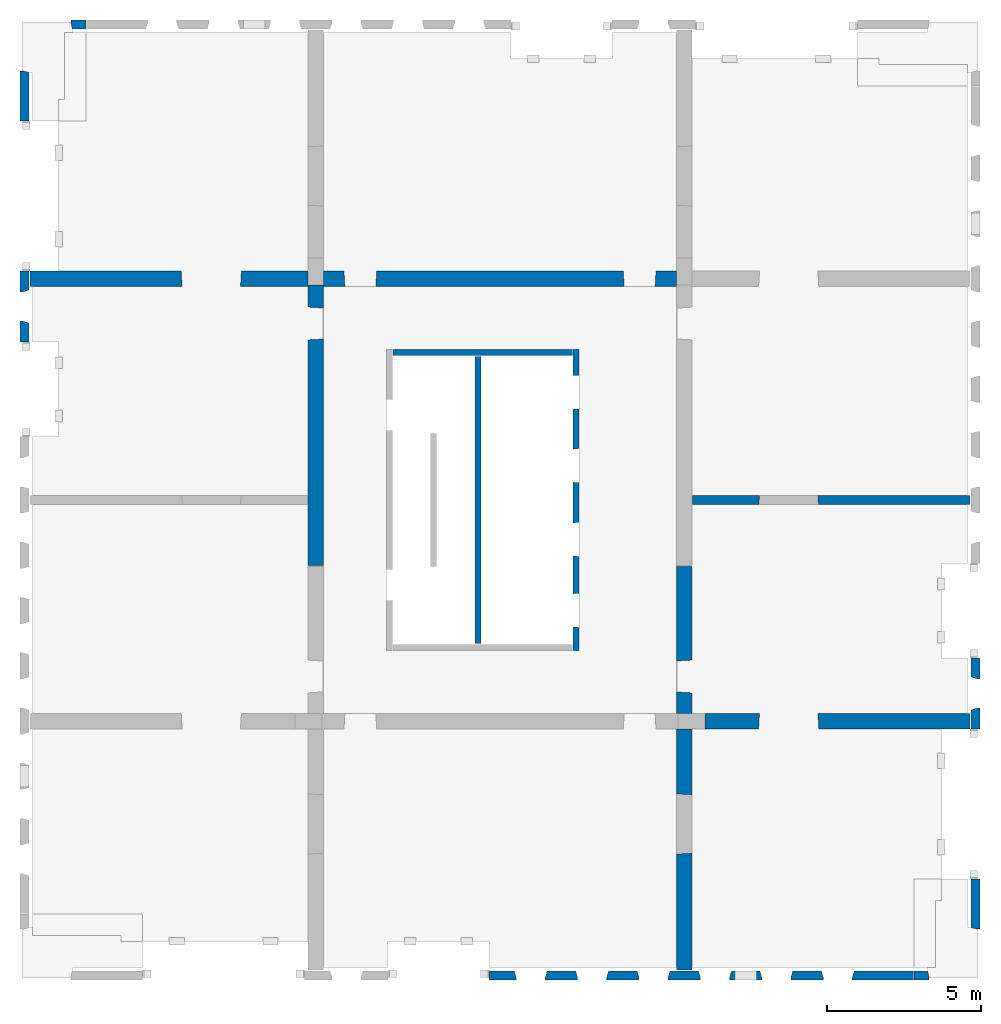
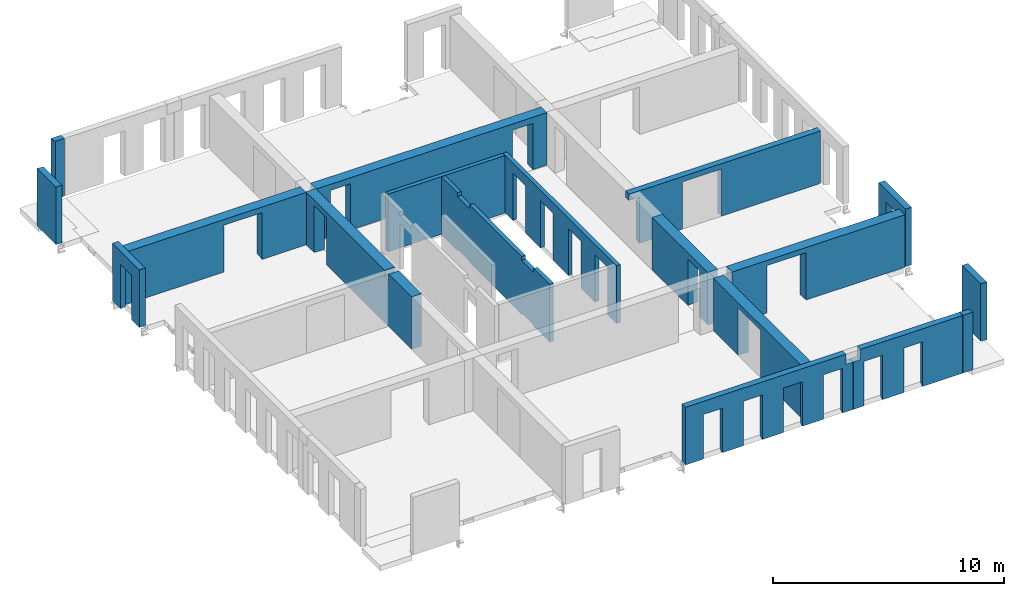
# One storey, part 3 of 4: 18 walls, 36 openings.
"""IFC2X3 building model written with IfcOpenShell, lengths in millimetres."""

from ifc_helpers import new_model, entity, si_unit, converted_unit, derived_unit, direction, frame, frame_2d, origin, origin_2d_with_axis, place, context, subcontext, project, spatial, rectangle, extrude, faceted_brep, material, layer, layer_set, layer_usage, type_object, element, save


model = new_model("IFC2X3")

# Units and contexts
model_context = context("Model", 3, precision=0.01, world=origin(), true_north=direction((6.12303176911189e-17, 1.0)))
body_context = subcontext(model_context, "Body", "Model", "MODEL_VIEW")
ifc_project = project(units=[si_unit("LENGTHUNIT", "METRE", prefix="MILLI"), si_unit("AREAUNIT", "SQUARE_METRE"), si_unit("VOLUMEUNIT", "CUBIC_METRE"), converted_unit("PLANEANGLEUNIT", "DEGREE", entity("IfcRatioMeasure", 0.0174532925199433), si_unit("PLANEANGLEUNIT", "RADIAN"), dimensions=[0, 0, 0, 0, 0, 0, 0]), si_unit("MASSUNIT", "GRAM", prefix="KILO"), derived_unit("MASSDENSITYUNIT", [(si_unit("MASSUNIT", "GRAM", prefix="KILO"), 1), (si_unit("LENGTHUNIT", "METRE"), -3)]), si_unit("TIMEUNIT", "SECOND"), si_unit("FREQUENCYUNIT", "HERTZ"), si_unit("THERMODYNAMICTEMPERATUREUNIT", "DEGREE_CELSIUS"), derived_unit("THERMALTRANSMITTANCEUNIT", [(si_unit("MASSUNIT", "GRAM", prefix="KILO"), 1), (si_unit("THERMODYNAMICTEMPERATUREUNIT", "KELVIN"), -1), (si_unit("TIMEUNIT", "SECOND"), -3)]), derived_unit("VOLUMETRICFLOWRATEUNIT", [(si_unit("LENGTHUNIT", "METRE"), 3), (si_unit("TIMEUNIT", "SECOND"), -1)]), si_unit("ELECTRICCURRENTUNIT", "AMPERE"), si_unit("ELECTRICVOLTAGEUNIT", "VOLT"), si_unit("POWERUNIT", "WATT"), si_unit("FORCEUNIT", "NEWTON", prefix="KILO"), si_unit("ILLUMINANCEUNIT", "LUX"), si_unit("LUMINOUSFLUXUNIT", "LUMEN"), si_unit("LUMINOUSINTENSITYUNIT", "CANDELA"), derived_unit("USERDEFINED", [(si_unit("MASSUNIT", "GRAM", prefix="KILO"), -1), (si_unit("LENGTHUNIT", "METRE"), -2), (si_unit("TIMEUNIT", "SECOND"), 3), (si_unit("LUMINOUSFLUXUNIT", "LUMEN"), 1)]), derived_unit("LINEARVELOCITYUNIT", [(si_unit("LENGTHUNIT", "METRE"), 1), (si_unit("TIMEUNIT", "SECOND"), -1)]), si_unit("PRESSUREUNIT", "PASCAL"), derived_unit("USERDEFINED", [(si_unit("LENGTHUNIT", "METRE"), -2), (si_unit("MASSUNIT", "GRAM", prefix="KILO"), 1), (si_unit("TIMEUNIT", "SECOND"), -2)])], contexts=[model_context])

# Site, building, storey
site_placement = place(None, origin())
site = spatial("IfcSite", under=ifc_project, at=site_placement, Name="Default", CompositionType="ELEMENT")
building_placement = place(site_placement, origin())
building = spatial("IfcBuilding", under=site, at=building_placement, Name="niet gebruiken", CompositionType="ELEMENT")
storey_placement = place(building_placement, frame((0.0, 0.0, 30240.0)))
storey = spatial("IfcBuildingStorey", under=building, at=storey_placement, Name="09 negende verdieping", CompositionType="ELEMENT", Elevation=30240.0)

# Wall, openings
ifc_material = material(Name="NLRS_f2_beton prefab")
ifc_layer_1 = layer(ifc_material, 200.0)
ifc_layer_set_1 = layer_set([ifc_layer_1], Name="Basic Wall:NLRS_22.21_WA_beton prefab d=200_gen")
ifc_layer_usage_1 = layer_usage(ifc_layer_set_1, "AXIS2", "NEGATIVE", 100.0)
wall_type_1 = type_object("IfcWallType", Name="Basic Wall:NLRS_22.21_WA_beton prefab d=200_gen", PredefinedType="STANDARD", material=ifc_layer_set_1)
wall_1_placement = place(storey_placement, frame((144230.0, 22400.0, -50.0), z_axis=(0.0, 0.0, 1.0), x_axis=(0.0, -1.0, 0.0)))
wall_1 = element("IfcWallStandardCase", 1, at=wall_1_placement, inside=storey, type_object=wall_type_1, material=ifc_layer_usage_1, Name="Basic Wall:NLRS_22.21_WA_beton prefab d=200_gen", ObjectType="Basic Wall:NLRS_22.21_WA_beton prefab d=200_gen", context=body_context, shape_type="SweptSolid", body=[
    extrude(rectangle(XDim=9800.0, YDim=199.999999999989, at=frame_2d((4900.0, -3.69482222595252e-13), x_axis=(-1.0, 0.0))), origin(), (0.0, 0.0, 1.0), 3039.99999999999),
])
opening_1_placement = place(wall_1_placement, frame((9047.0, -100.0, 0.0)))
element("IfcOpeningElement", 2, at=opening_1_placement, cuts=wall_1, Name="Basic Wall:NLRS_22.21_WA_beton prefab d=200_gen", ObjectType="Opening", context=body_context, shape_type="Brep", body=[
    faceted_brep([(-1104.0, 200.0, 2502.0), (-1104.0, 200.0, 0.0), (-1092.0, 0.0, 0.0), (-1092.0, 0.0, 2490.0), (0.0, 200.0, 0.0), (-12.0, 0.0, 0.0), (-12.0, 0.0, 2490.0), (0.0, 200.0, 2502.0)], [[[0, 1, 2, 3]], [[1, 4, 5, 2]], [[6, 3, 2, 5]], [[7, 4, 1, 0]], [[7, 0, 3, 6]], [[4, 7, 6, 5]]]),
])
opening_2_placement = place(wall_1_placement, frame((6737.0, -100.0, 0.0)))
element("IfcOpeningElement", 3, at=opening_2_placement, cuts=wall_1, Name="Basic Wall:NLRS_22.21_WA_beton prefab d=200_gen", ObjectType="Opening", context=body_context, shape_type="Brep", body=[
    faceted_brep([(-1104.0, 200.0, 2502.0), (-1104.0, 200.0, 0.0), (-1092.0, 0.0, 0.0), (-1092.0, 0.0, 2490.0), (0.0, 200.0, 0.0), (-12.0, 0.0, 0.0), (-12.0, 0.0, 2490.0), (0.0, 200.0, 2502.0)], [[[0, 1, 2, 3]], [[1, 4, 5, 2]], [[6, 3, 2, 5]], [[7, 4, 1, 0]], [[7, 0, 3, 6]], [[4, 7, 6, 5]]]),
])
opening_3_placement = place(wall_1_placement, frame((4332.0, -100.0, 0.0)))
element("IfcOpeningElement", 4, at=opening_3_placement, cuts=wall_1, Name="Basic Wall:NLRS_22.21_WA_beton prefab d=200_gen", ObjectType="Opening", context=body_context, shape_type="Brep", body=[
    faceted_brep([(-1104.0, 200.0, 2502.0), (-1104.0, 200.0, 0.0), (-1092.0, 0.0, 0.0), (-1092.0, 0.0, 2490.0), (0.0, 200.0, 0.0), (-12.0, 0.0, 0.0), (-12.0, 0.0, 2490.0), (0.0, 200.0, 2502.0)], [[[0, 1, 2, 3]], [[1, 4, 5, 2]], [[6, 3, 2, 5]], [[7, 4, 1, 0]], [[7, 0, 3, 6]], [[4, 7, 6, 5]]]),
])
opening_4_placement = place(wall_1_placement, frame((1942.0, -100.0, 0.0)))
element("IfcOpeningElement", 5, at=opening_4_placement, cuts=wall_1, Name="Basic Wall:NLRS_22.21_WA_beton prefab d=200_gen", ObjectType="Opening", context=body_context, shape_type="Brep", body=[
    faceted_brep([(-1104.0, 200.0, 2502.0), (-1104.0, 200.0, 0.0), (-1092.0, 0.0, 0.0), (-1092.0, 0.0, 2490.0), (0.0, 200.0, 0.0), (-12.0, 0.0, 0.0), (-12.0, 0.0, 2490.0), (0.0, 200.0, 2502.0)], [[[0, 1, 2, 3]], [[1, 4, 5, 2]], [[6, 3, 2, 5]], [[7, 4, 1, 0]], [[7, 0, 3, 6]], [[4, 7, 6, 5]]]),
])

ifc_layer_usage_2 = layer_usage(ifc_layer_set_1, "AXIS2", "NEGATIVE", 100.0)
wall_2_placement = place(storey_placement, frame((141030.0, 22180.0, -50.0), z_axis=(0.0, 0.0, 1.0), x_axis=(0.0, -1.0, 0.0)))
wall_2 = element("IfcWallStandardCase", 6, at=wall_2_placement, inside=storey, type_object=wall_type_1, material=ifc_layer_usage_2, Name="Basic Wall:NLRS_22.21_WA_beton prefab d=200_gen", ObjectType="Basic Wall:NLRS_22.21_WA_beton prefab d=200_gen", context=body_context, shape_type="SweptSolid", body=[
    extrude(rectangle(XDim=9360.0, YDim=199.999999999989, at=frame_2d((4680.0, -2.8421709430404e-14), x_axis=(-1.0, 0.0))), origin(), (0.0, 0.0, 1.0), 3039.99999999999),
])
opening_5_placement = place(wall_2_placement, origin())
element("IfcOpeningElement", 7, at=opening_5_placement, cuts=wall_2, Name="Basic Wall:NLRS_22.21_WA_beton prefab d=200_gen", ObjectType="Opening", context=body_context, shape_type="SweptSolid", body=[
    extrude(rectangle(XDim=70.0000000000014, YDim=1044.00000000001, at=origin_2d_with_axis()), frame((7452.0, -100.0, 35.0), z_axis=(0.0, 1.0, 0.0), x_axis=(0.0, 0.0, -1.0)), (0.0, 0.0, 1.0), 199.999999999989),
])
opening_6_placement = place(wall_2_placement, origin())
element("IfcOpeningElement", 8, at=opening_6_placement, cuts=wall_2, Name="Basic Wall:NLRS_22.21_WA_beton prefab d=200_gen", ObjectType="Opening", context=body_context, shape_type="SweptSolid", body=[
    extrude(rectangle(XDim=70.0000000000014, YDim=1044.00000000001, at=origin_2d_with_axis()), frame((1908.0, -100.0, 35.0), z_axis=(0.0, 1.0, 0.0), x_axis=(0.0, 0.0, -1.0)), (0.0, 0.0, 1.0), 199.999999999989),
])
opening_7_placement = place(wall_2_placement, origin())
element("IfcOpeningElement", 9, at=opening_7_placement, cuts=wall_2, Name="Basic Wall:NLRS_22.21_WA_beton prefab d=200_gen", ObjectType="Opening", context=body_context, shape_type="SweptSolid", body=[
    extrude(rectangle(XDim=199.999999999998, YDim=1044.00000000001, at=origin_2d_with_axis()), frame((1908.0, -100.0, 2940.0), z_axis=(0.0, 1.0, 0.0), x_axis=(0.0, 0.0, -1.0)), (0.0, 0.0, 1.0), 199.999999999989),
])
opening_8_placement = place(wall_2_placement, origin())
element("IfcOpeningElement", 10, at=opening_8_placement, cuts=wall_2, Name="Basic Wall:NLRS_22.21_WA_beton prefab d=200_gen", ObjectType="Opening", context=body_context, shape_type="SweptSolid", body=[
    extrude(rectangle(XDim=199.999999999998, YDim=1044.00000000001, at=origin_2d_with_axis()), frame((7452.0, -100.0, 2940.0), z_axis=(0.0, 1.0, 0.0), x_axis=(0.0, 0.0, -1.0)), (0.0, 0.0, 1.0), 199.999999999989),
])
opening_9_placement = place(wall_2_placement, origin())
element("IfcOpeningElement", 11, at=opening_9_placement, cuts=wall_2, Name="Basic Wall:NLRS_22.21_WA_beton prefab d=200_gen", ObjectType="Recess", context=body_context, shape_type="SweptSolid", body=[
    extrude(rectangle(XDim=399.999999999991, YDim=280.000000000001, at=frame_2d((-2.1600499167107e-12, 2.1600499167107e-12), x_axis=(0.0, 1.0))), frame((770.0, -60.0, 438.0), z_axis=(0.0, 1.0, 0.0), x_axis=(1.0, 0.0, 0.0)), (0.0, 0.0, 1.0), 159.999999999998),
])
opening_10_placement = place(wall_2_placement, origin())
element("IfcOpeningElement", 12, at=opening_10_placement, cuts=wall_2, Name="Basic Wall:NLRS_22.21_WA_beton prefab d=200_gen", ObjectType="Recess", context=body_context, shape_type="SweptSolid", body=[
    extrude(rectangle(XDim=399.999999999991, YDim=280.000000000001, at=frame_2d((-2.1600499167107e-12, 2.1600499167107e-12), x_axis=(0.0, 1.0))), frame((1570.0, -60.0, 438.0), z_axis=(0.0, 1.0, 0.0), x_axis=(1.0, 0.0, 0.0)), (0.0, 0.0, 1.0), 159.999999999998),
])
opening_11_placement = place(wall_2_placement, origin())
element("IfcOpeningElement", 13, at=opening_11_placement, cuts=wall_2, Name="Basic Wall:NLRS_22.21_WA_beton prefab d=200_gen", ObjectType="Recess", context=body_context, shape_type="SweptSolid", body=[
    extrude(rectangle(XDim=399.999999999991, YDim=279.999999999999, at=frame_2d((-1.08002495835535e-12, 2.1600499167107e-12), x_axis=(0.0, 1.0))), frame((3160.0, -60.0, 438.0), z_axis=(0.0, 1.0, 0.0), x_axis=(1.0, 0.0, 0.0)), (0.0, 0.0, 1.0), 159.999999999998),
])
opening_12_placement = place(wall_2_placement, origin())
element("IfcOpeningElement", 14, at=opening_12_placement, cuts=wall_2, Name="Basic Wall:NLRS_22.21_WA_beton prefab d=200_gen", ObjectType="Recess", context=body_context, shape_type="SweptSolid", body=[
    extrude(rectangle(XDim=399.999999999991, YDim=279.999999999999, at=frame_2d((1.08002495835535e-12, -2.1600499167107e-12), x_axis=(0.0, 1.0))), frame((3960.0, -60.0, 438.0), z_axis=(0.0, 1.0, 0.0), x_axis=(1.0, 0.0, 0.0)), (0.0, 0.0, 1.0), 159.999999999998),
])

# Wall
ifc_layer_usage_3 = layer_usage(ifc_layer_set_1, "AXIS2", "NEGATIVE", 100.0)
wall_3_placement = place(storey_placement, frame((138270.0, 22300.0, -50.0)))
element("IfcWallStandardCase", 15, at=wall_3_placement, inside=storey, type_object=wall_type_1, material=ifc_layer_usage_3, Name="Basic Wall:NLRS_22.21_WA_beton prefab d=200_gen", ObjectType="Basic Wall:NLRS_22.21_WA_beton prefab d=200_gen", context=body_context, shape_type="SweptSolid", body=[
    extrude(rectangle(XDim=5839.99999999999, YDim=199.999999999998, at=frame_2d((2919.99999999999, -7.60280727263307e-13), x_axis=(-1.0, 0.0))), origin(), (0.0, 0.0, 1.0), 3039.99999999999),
])

# Wall, openings
ifc_layer_2 = layer(ifc_material, 300.0)
ifc_layer_set_2 = layer_set([ifc_layer_2], Name="Basic Wall:NLRS_22.21_WA_beton prefab d=300_gen")
ifc_layer_usage_4 = layer_usage(ifc_layer_set_2, "AXIS2", "NEGATIVE", 150.0)
wall_type_2 = type_object("IfcWallType", Name="Basic Wall:NLRS_22.21_WA_beton prefab d=300_gen", PredefinedType="STANDARD", material=ifc_layer_set_2)
wall_4_placement = place(storey_placement, frame((157060.0, 17500.0, -70.0), z_axis=(0.0, 0.0, 1.0), x_axis=(-1.0, 0.0, 0.0)))
wall_4 = element("IfcWallStandardCase", 16, at=wall_4_placement, inside=storey, type_object=wall_type_2, material=ifc_layer_usage_4, Name="Basic Wall:NLRS_22.21_WA_beton prefab d=300_gen", ObjectType="Basic Wall:NLRS_22.21_WA_beton prefab d=300_gen", context=body_context, shape_type="SweptSolid", body=[
    extrude(rectangle(XDim=9559.9999999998, YDim=300.000000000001, at=frame_2d((4779.9999999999, -7.53175299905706e-13), x_axis=(-1.0, 0.0))), origin(), (0.0, 0.0, 1.0), 2770.0),
])
opening_13_placement = place(wall_4_placement, frame((6878.0, 150.0, 0.0)))
element("IfcOpeningElement", 17, at=opening_13_placement, cuts=wall_4, Name="Basic Wall:NLRS_22.21_WA_beton prefab d=300_gen", ObjectType="Opening", context=body_context, shape_type="Brep", body=[
    faceted_brep([(-18.0, -300.0, 2470.0), (-1918.0, -300.0, 2470.0), (-1918.0, -300.0, 0.0), (-18.0, -300.0, 0.0), (0.0, 0.0, 2488.0), (0.0, 0.0, 0.0), (-1936.0, 0.0, 0.0), (-1936.0, 0.0, 2488.0)], [[[0, 1, 2, 3]], [[4, 5, 6, 7]], [[4, 7, 1, 0]], [[7, 6, 2, 1]], [[6, 5, 3, 2]], [[5, 4, 0, 3]]]),
])
opening_14_placement = place(wall_4_placement, origin())
element("IfcOpeningElement", 18, at=opening_14_placement, cuts=wall_4, Name="Basic Wall:NLRS_22.21_WA_beton prefab d=300_gen", ObjectType="Opening", context=body_context, shape_type="SweptSolid", body=[
    extrude(rectangle(XDim=2440.0, YDim=520.000000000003, at=frame_2d((8.64019966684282e-12, 0.0), x_axis=(0.0, 1.0))), frame((9300.0, 150.0, 1220.0), z_axis=(0.0, -1.0, 0.0), x_axis=(1.0, 0.0, 0.0)), (0.0, 0.0, 1.0), 300.0),
])

ifc_layer_3 = layer(ifc_material, 500.0)
ifc_layer_set_3 = layer_set([ifc_layer_3], Name="Basic Wall:NLRS_22.21_WA_beton prefab d=500_gen")
ifc_layer_usage_5 = layer_usage(ifc_layer_set_3, "AXIS2", "NEGATIVE", 250.0)
wall_type_3 = type_object("IfcWallType", Name="Basic Wall:NLRS_22.21_WA_beton prefab d=500_gen", PredefinedType="STANDARD", material=ifc_layer_set_3)
wall_5_placement = place(storey_placement, frame((136000.003540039, 24700.0, -70.0)))
wall_5 = element("IfcWallStandardCase", 19, at=wall_5_placement, inside=storey, type_object=wall_type_3, material=ifc_layer_usage_5, Name="Basic Wall:NLRS_22.21_WA_beton prefab d=500_gen", ObjectType="Basic Wall:NLRS_22.21_WA_beton prefab d=500_gen", context=body_context, shape_type="SweptSolid", body=[
    extrude(rectangle(XDim=11499.9964599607, YDim=499.999999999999, at=frame_2d((5749.99822998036, 0.0), x_axis=(-1.0, 0.0))), origin(), (0.0, 0.0, 1.0), 2770.00000000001),
])
opening_15_placement = place(wall_5_placement, frame((669.996459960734, -250.0, 0.0)))
element("IfcOpeningElement", 20, at=opening_15_placement, cuts=wall_5, Name="Basic Wall:NLRS_22.21_WA_beton prefab d=500_gen", ObjectType="Opening", context=body_context, shape_type="Brep", body=[
    faceted_brep([(1066.0, 500.0, 2478.0), (1036.0, 0.0, 2448.0), (1036.0, 0.0, 0.0), (1066.0, 500.0, 0.0), (30.0, 0.0, 0.0), (0.0, 500.0, 0.0), (30.0, 0.0, 2448.0), (0.0, 500.0, 2478.0)], [[[0, 1, 2, 3]], [[3, 2, 4, 5]], [[6, 4, 2, 1]], [[7, 0, 3, 5]], [[7, 6, 1, 0]], [[5, 4, 6, 7]]]),
])
opening_16_placement = place(wall_5_placement, frame((9763.99645996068, -250.0, 0.0)))
element("IfcOpeningElement", 21, at=opening_16_placement, cuts=wall_5, Name="Basic Wall:NLRS_22.21_WA_beton prefab d=500_gen", ObjectType="Opening", context=body_context, shape_type="Brep", body=[
    faceted_brep([(30.0, 0.0, 2448.0), (30.0, 0.0, 0.0), (1036.0, 0.0, 0.0), (1036.0, 0.0, 2448.0), (0.0, 500.0, 2478.0), (1066.0, 500.0, 2478.0), (1066.0, 500.0, 0.0), (0.0, 500.0, 0.0)], [[[0, 1, 2, 3]], [[4, 5, 6, 7]], [[4, 0, 3, 5]], [[5, 3, 2, 6]], [[6, 2, 1, 7]], [[7, 1, 0, 4]]]),
])

# Wall, opening
ifc_layer_usage_6 = layer_usage(ifc_layer_set_3, "AXIS2", "NEGATIVE", 250.0)
wall_6_placement = place(storey_placement, frame((147750.0, 10050.0, -70.0), z_axis=(0.0, 0.0, 1.0), x_axis=(0.0, -1.0, 0.0)))
wall_6 = element("IfcWallStandardCase", 22, at=wall_6_placement, inside=storey, type_object=wall_type_3, material=ifc_layer_usage_6, Name="Basic Wall:NLRS_22.21_WA_beton prefab d=500_gen", ObjectType="Basic Wall:NLRS_22.21_WA_beton prefab d=500_gen", context=body_context, shape_type="SweptSolid", body=[
    extrude(rectangle(XDim=7859.99999999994, YDim=499.99999999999, at=frame_2d((3929.99999999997, 8.5265128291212e-14), x_axis=(-1.0, 0.0))), origin(), (0.0, 0.0, 1.0), 2770.0),
])
opening_17_placement = place(wall_6_placement, frame((4080.0, -250.0, 0.0)))
element("IfcOpeningElement", 23, at=opening_17_placement, cuts=wall_6, Name="Basic Wall:NLRS_22.21_WA_beton prefab d=500_gen", ObjectType="Opening", context=body_context, shape_type="Brep", body=[
    faceted_brep([(-30.0, 500.0, 2470.0), (-30.0, 500.0, 0.0), (-1930.0, 500.0, 0.0), (-1930.0, 500.0, 2470.0), (0.0, 0.0, 2500.0), (-1960.0, 0.0, 2500.0), (-1960.0, 0.0, 0.0), (0.0, 0.0, 0.0)], [[[0, 1, 2, 3]], [[4, 5, 6, 7]], [[4, 0, 3, 5]], [[5, 3, 2, 6]], [[6, 2, 1, 7]], [[7, 1, 0, 4]]]),
])

ifc_layer_usage_7 = layer_usage(ifc_layer_set_3, "AXIS2", "NEGATIVE", 250.0)
wall_7_placement = place(storey_placement, frame((135500.003540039, 24700.0, -70.0), z_axis=(0.0, 0.0, 1.0), x_axis=(-1.0, 0.0, 0.0)))
wall_7 = element("IfcWallStandardCase", 24, at=wall_7_placement, inside=storey, type_object=wall_type_3, material=ifc_layer_usage_7, Name="Basic Wall:NLRS_22.21_WA_beton prefab d=500_gen", ObjectType="Basic Wall:NLRS_22.21_WA_beton prefab d=500_gen", context=body_context, shape_type="SweptSolid", body=[
    extrude(rectangle(XDim=9060.00354003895, YDim=499.999999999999, at=frame_2d((4530.00177001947, 7.24753590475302e-13), x_axis=(-1.0, 0.0))), origin(), (0.0, 0.0, 1.0), 2770.0),
])
opening_18_placement = place(wall_7_placement, frame((4130.00354003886, 250.0, 0.0)))
element("IfcOpeningElement", 25, at=opening_18_placement, cuts=wall_7, Name="Basic Wall:NLRS_22.21_WA_beton prefab d=500_gen", ObjectType="Opening", context=body_context, shape_type="Brep", body=[
    faceted_brep([(-1930.0, 0.0, 2470.0), (-30.0, 0.0, 2470.0), (-30.0, 0.0, 0.0), (-1930.0, 0.0, 0.0), (-1960.0, -500.0, 2500.0), (-1960.0, -500.0, 0.0), (0.0, -500.0, 0.0), (0.0, -500.0, 2500.0)], [[[0, 1, 2, 3]], [[4, 5, 6, 7]], [[4, 7, 1, 0]], [[7, 6, 2, 1]], [[6, 5, 3, 2]], [[5, 4, 0, 3]]]),
])

ifc_layer_usage_8 = layer_usage(ifc_layer_set_3, "AXIS2", "NEGATIVE", 250.0)
wall_8_placement = place(storey_placement, frame((148430.0, 10300.0, -70.0)))
wall_8 = element("IfcWallStandardCase", 26, at=wall_8_placement, inside=storey, type_object=wall_type_3, material=ifc_layer_usage_8, Name="Basic Wall:NLRS_22.21_WA_beton prefab d=500_gen", ObjectType="Basic Wall:NLRS_22.21_WA_beton prefab d=500_gen", context=body_context, shape_type="SweptSolid", body=[
    extrude(rectangle(XDim=8630.00000000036, YDim=499.999999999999, at=frame_2d((4315.00000000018, 2.70006239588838e-13), x_axis=(-1.0, 0.0))), origin(), (0.0, 0.0, 1.0), 2770.0),
])
opening_19_placement = place(wall_8_placement, frame((1740.0, -250.0, 0.0)))
element("IfcOpeningElement", 27, at=opening_19_placement, cuts=wall_8, Name="Basic Wall:NLRS_22.21_WA_beton prefab d=500_gen", ObjectType="Opening", context=body_context, shape_type="Brep", body=[
    faceted_brep([(30.0, 500.0, 2470.0), (1930.0, 500.0, 2470.0), (1930.0, 500.0, 0.0), (30.0, 500.0, 0.0), (0.0, 0.0, 2500.0), (0.0, 0.0, 0.0), (1960.0, 0.0, 0.0), (1960.0, 0.0, 2500.0)], [[[0, 1, 2, 3]], [[4, 5, 6, 7]], [[4, 7, 1, 0]], [[7, 6, 2, 1]], [[6, 5, 3, 2]], [[5, 4, 0, 3]]]),
])

ifc_layer_usage_9 = layer_usage(ifc_layer_set_3, "AXIS2", "NEGATIVE", 250.0)
wall_9_placement = place(storey_placement, frame((147750.0, 15340.0, -70.0), z_axis=(0.0, 0.0, 1.0), x_axis=(0.0, -1.0, 0.0)))
wall_9 = element("IfcWallStandardCase", 28, at=wall_9_placement, inside=storey, type_object=wall_type_3, material=ifc_layer_usage_9, Name="Basic Wall:NLRS_22.21_WA_beton prefab d=500_gen", ObjectType="Basic Wall:NLRS_22.21_WA_beton prefab d=500_gen", context=body_context, shape_type="SweptSolid", body=[
    extrude(rectangle(XDim=4789.99999999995, YDim=499.99999999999, at=frame_2d((2394.99999999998, 0.0), x_axis=(-1.0, 0.0))), origin(), (0.0, 0.0, 1.0), 2770.00000000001),
])
opening_20_placement = place(wall_9_placement, frame((4120.0, -250.0, 0.0)))
element("IfcOpeningElement", 29, at=opening_20_placement, cuts=wall_9, Name="Basic Wall:NLRS_22.21_WA_beton prefab d=500_gen", ObjectType="Opening", context=body_context, shape_type="Brep", body=[
    faceted_brep([(-1066.0, 500.0, 2478.0), (-1066.0, 500.0, 0.0), (-1036.0, 0.0, 0.0), (-1036.0, 0.0, 2448.0), (0.0, 500.0, 0.0), (-30.0, 0.0, 0.0), (-30.0, 0.0, 2448.0), (0.0, 500.0, 2478.0)], [[[0, 1, 2, 3]], [[1, 4, 5, 2]], [[6, 3, 2, 5]], [[7, 4, 1, 0]], [[7, 0, 3, 6]], [[4, 7, 6, 5]]]),
])

# Wall, openings
ifc_layer_usage_10 = layer_usage(ifc_layer_set_3, "AXIS2", "NEGATIVE", 250.0)
wall_10_placement = place(storey_placement, frame((135750.0, 24500.0, -70.0), z_axis=(0.0, 0.0, 1.0), x_axis=(0.0, -1.0, 0.0)))
wall_10 = element("IfcWallStandardCase", 30, at=wall_10_placement, inside=storey, type_object=wall_type_3, material=ifc_layer_usage_10, Name="Basic Wall:NLRS_22.21_WA_beton prefab d=500_gen", ObjectType="Basic Wall:NLRS_22.21_WA_beton prefab d=500_gen", context=body_context, shape_type="SweptSolid", body=[
    extrude(rectangle(XDim=9140.0, YDim=499.99999999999, at=frame_2d((4570.0, 5.6843418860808e-14), x_axis=(-1.0, 0.0))), origin(), (0.0, 0.0, 1.0), 2770.00000000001),
])
opening_21_placement = place(wall_10_placement, frame((1786.0, -250.0, 0.0)))
element("IfcOpeningElement", 31, at=opening_21_placement, cuts=wall_10, Name="Basic Wall:NLRS_22.21_WA_beton prefab d=500_gen", ObjectType="Opening", context=body_context, shape_type="Brep", body=[
    faceted_brep([(-1066.0, 0.0, 2478.0), (-1036.0, 500.0, 2448.0), (-1036.0, 500.0, 0.0), (-1066.0, 0.0, 0.0), (-30.0, 500.0, 0.0), (0.0, 0.0, 0.0), (-30.0, 500.0, 2448.0), (0.0, 0.0, 2478.0)], [[[0, 1, 2, 3]], [[3, 2, 4, 5]], [[6, 4, 2, 1]], [[7, 0, 3, 5]], [[7, 6, 1, 0]], [[5, 4, 6, 7]]]),
])
opening_22_placement = place(wall_10_placement, origin())
element("IfcOpeningElement", 32, at=opening_22_placement, cuts=wall_10, Name="Basic Wall:NLRS_22.21_WA_beton prefab d=500_gen", ObjectType="Opening", context=body_context, shape_type="SweptSolid", body=[
    extrude(rectangle(XDim=349.999999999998, YDim=340.000000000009, at=frame_2d((0.0, 0.0), x_axis=(0.0, 1.0))), frame((7000.0, 250.0, 2595.0), z_axis=(0.0, -1.0, 0.0), x_axis=(-1.0, 0.0, 0.0)), (0.0, 0.0, 1.0), 500.0),
])

# Wall, opening
ifc_layer_4 = layer(ifc_material, 300.0)
ifc_layer_set_4 = layer_set([ifc_layer_4], Name="Basic Wall:NLRS_21.21_WA_beton prefab d=300/320_gen")
ifc_layer_usage_11 = layer_usage(ifc_layer_set_4, "AXIS2", "NEGATIVE", 150.0)
wall_type_4 = type_object("IfcWallType", Name="Basic Wall:NLRS_21.21_WA_beton prefab d=300/320_gen", PredefinedType="STANDARD", material=ifc_layer_set_4)
wall_11_placement = place(storey_placement, frame((157230.0, 12360.0, -50.0), z_axis=(0.0, 0.0, 1.0), x_axis=(0.0, -1.0, 0.0)))
wall_11 = element("IfcWallStandardCase", 33, at=wall_11_placement, inside=storey, type_object=wall_type_4, material=ifc_layer_usage_11, Name="Basic Wall:NLRS_21.21_WA_beton prefab d=300/320_gen", ObjectType="Basic Wall:NLRS_21.21_WA_beton prefab d=300/320_gen", context=body_context, shape_type="SweptSolid", body=[
    extrude(rectangle(XDim=2320.00000000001, YDim=300.000000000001, at=frame_2d((1160.0, -8.38440428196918e-12), x_axis=(-1.0, 0.0))), origin(), (0.0, 0.0, 1.0), 3040.0),
])
opening_23_placement = place(wall_11_placement, frame((1695.0, -150.0, -20.0)))
element("IfcOpeningElement", 34, at=opening_23_placement, cuts=wall_11, Name="Basic Wall:NLRS_21.21_WA_beton prefab d=300/320_gen", ObjectType="Opening", context=body_context, shape_type="Brep", body=[
    faceted_brep([(-1070.0, 0.0, 2405.0), (-1070.0, 0.0, 0.0), (0.0, 0.0, 0.0), (0.0, 0.0, 2405.0), (-65.0, 219.0, 2370.0), (-1005.0, 219.0, 2370.0), (-65.0, 219.0, 0.0), (-1005.0, 219.0, 0.0), (-1005.0, 300.0, 0.0), (-65.0, 300.0, 0.0), (-1005.0, 300.0, 2370.0), (-65.0, 300.0, 2370.0)], [[[0, 1, 2, 3]], [[3, 4, 5, 0]], [[2, 6, 4, 3]], [[1, 7, 8, 9, 6, 2]], [[0, 5, 7, 1]], [[10, 11, 9, 8]], [[10, 5, 4, 11]], [[11, 4, 6, 9]], [[8, 7, 5, 10]]]),
])

ifc_layer_usage_12 = layer_usage(ifc_layer_set_4, "AXIS2", "NEGATIVE", 150.0)
wall_12_placement = place(storey_placement, frame((126270.0, 22640.0, -50.0), z_axis=(0.0, 0.0, 1.0), x_axis=(0.0, 1.0, 0.0)))
wall_12 = element("IfcWallStandardCase", 35, at=wall_12_placement, inside=storey, type_object=wall_type_4, material=ifc_layer_usage_12, Name="Basic Wall:NLRS_21.21_WA_beton prefab d=300/320_gen", ObjectType="Basic Wall:NLRS_21.21_WA_beton prefab d=300/320_gen", context=body_context, shape_type="SweptSolid", body=[
    extrude(rectangle(XDim=2320.0, YDim=300.000000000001, at=frame_2d((1160.0, -3.60955709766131e-12), x_axis=(-1.0, 0.0))), origin(), (0.0, 0.0, 1.0), 3040.0),
])
opening_24_placement = place(wall_12_placement, frame((625.0, 150.0, -20.0)))
element("IfcOpeningElement", 36, at=opening_24_placement, cuts=wall_12, Name="Basic Wall:NLRS_21.21_WA_beton prefab d=300/320_gen", ObjectType="Opening", context=body_context, shape_type="Brep", body=[
    faceted_brep([(0.0, -300.0, 2405.0), (0.0, -300.0, 0.0), (1070.0, -300.0, 0.0), (1070.0, -300.0, 2405.0), (1005.0, -81.0, 2370.0), (65.0, -81.0, 2370.0), (1005.0, -81.0, 0.0), (65.0, -81.0, 0.0), (65.0, 0.0, 0.0), (1005.0, 0.0, 0.0), (65.0, 0.0, 2370.0), (1005.0, 0.0, 2370.0)], [[[0, 1, 2, 3]], [[3, 4, 5, 0]], [[2, 6, 4, 3]], [[1, 7, 8, 9, 6, 2]], [[0, 5, 7, 1]], [[10, 11, 9, 8]], [[10, 5, 4, 11]], [[11, 4, 6, 9]], [[8, 7, 5, 10]]]),
])

ifc_layer_usage_13 = layer_usage(ifc_layer_set_4, "AXIS2", "NEGATIVE", 150.0)
wall_13_placement = place(storey_placement, frame((127780.0, 32980.0, -50.0)))
wall_13 = element("IfcWallStandardCase", 37, at=wall_13_placement, inside=storey, type_object=wall_type_4, material=ifc_layer_usage_13, Name="Basic Wall:NLRS_21.21_WA_beton prefab d=300/320_gen", ObjectType="Basic Wall:NLRS_21.21_WA_beton prefab d=300/320_gen", context=body_context, shape_type="SweptSolid", body=[
    extrude(rectangle(XDim=489.999999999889, YDim=300.000000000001, at=frame_2d((244.999999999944, -6.67910171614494e-13), x_axis=(-1.0, 0.0))), origin(), (0.0, 0.0, 1.0), 3040.0),
])
opening_25_placement = place(wall_13_placement, frame((0.0, -250.0, 0.0)))
element("IfcOpeningElement", 38, at=opening_25_placement, cuts=wall_13, Name="Basic Wall:NLRS_21.21_WA_beton prefab d=300/320_gen", ObjectType="Opening", context=body_context, shape_type="Brep", body=[
    faceted_brep([(0.0, 0.0, 3040.0), (65.0, 0.0, 3040.0), (0.0, 319.0, 3040.0), (0.0, 0.0, 0.0), (0.0, 319.0, 0.0), (65.0, 0.0, 0.0)], [[[0, 1, 2]], [[3, 4, 5]], [[1, 0, 3, 5]], [[0, 2, 4, 3]], [[2, 1, 5, 4]]]),
])

ifc_layer_usage_14 = layer_usage(ifc_layer_set_4, "AXIS2", "NEGATIVE", 150.0)
wall_14_placement = place(storey_placement, frame((126270.0, 29840.0, -50.0), z_axis=(0.0, 0.0, 1.0), x_axis=(0.0, 1.0, 0.0)))
wall_14 = element("IfcWallStandardCase", 39, at=wall_14_placement, inside=storey, type_object=wall_type_4, material=ifc_layer_usage_14, Name="Basic Wall:NLRS_21.21_WA_beton prefab d=300/320_gen", ObjectType="Basic Wall:NLRS_21.21_WA_beton prefab d=300/320_gen", context=body_context, shape_type="SweptSolid", body=[
    extrude(rectangle(XDim=1629.99999999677, YDim=300.000000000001, at=frame_2d((814.999999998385, 8.95283847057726e-13), x_axis=(-1.0, 0.0))), origin(), (0.0, 0.0, 1.0), 3040.0),
])
opening_26_placement = place(wall_14_placement, frame((1565.0, 69.0, 0.0)))
element("IfcOpeningElement", 40, at=opening_26_placement, cuts=wall_14, Name="Basic Wall:NLRS_21.21_WA_beton prefab d=300/320_gen", ObjectType="Opening", context=body_context, shape_type="Brep", body=[
    faceted_brep([(65.0, -319.0, 3040.0), (65.0, 0.0, 3040.0), (0.0, -319.0, 3040.0), (65.0, -319.0, 0.0), (0.0, -319.0, 0.0), (65.0, 0.0, 0.0)], [[[0, 1, 2]], [[3, 4, 5]], [[2, 4, 3, 0]], [[0, 3, 5, 1]], [[1, 5, 4, 2]]]),
])

ifc_layer_usage_15 = layer_usage(ifc_layer_set_4, "AXIS2", "NEGATIVE", 150.0)
wall_15_placement = place(storey_placement, frame((155720.0, 2020.0, -50.0), z_axis=(0.0, 0.0, 1.0), x_axis=(-1.0, 0.0, 0.0)))
wall_15 = element("IfcWallStandardCase", 41, at=wall_15_placement, inside=storey, type_object=wall_type_4, material=ifc_layer_usage_15, Name="Basic Wall:NLRS_21.21_WA_beton prefab d=300/320_gen", ObjectType="Basic Wall:NLRS_21.21_WA_beton prefab d=300/320_gen", context=body_context, shape_type="SweptSolid", body=[
    extrude(rectangle(XDim=489.999999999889, YDim=300.0, at=frame_2d((244.999999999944, 4.2632564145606e-14), x_axis=(-1.0, 0.0))), origin(), (0.0, 0.0, 1.0), 3040.0),
])
opening_27_placement = place(wall_15_placement, frame((65.0, 69.0, 0.0)))
element("IfcOpeningElement", 42, at=opening_27_placement, cuts=wall_15, Name="Basic Wall:NLRS_21.21_WA_beton prefab d=300/320_gen", ObjectType="Opening", context=body_context, shape_type="Brep", body=[
    faceted_brep([(-65.0, -319.0, 3040.0), (0.0, -319.0, 3040.0), (-65.0, 0.0, 3040.0), (-65.0, -319.0, 0.0), (-65.0, 0.0, 0.0), (0.0, -319.0, 0.0)], [[[0, 1, 2]], [[3, 4, 5]], [[1, 0, 3, 5]], [[0, 2, 4, 3]], [[2, 1, 5, 4]]]),
])

ifc_layer_usage_16 = layer_usage(ifc_layer_set_4, "AXIS2", "NEGATIVE", 150.0)
wall_16_placement = place(storey_placement, frame((157230.0, 5160.0, -50.0), z_axis=(0.0, 0.0, 1.0), x_axis=(0.0, -1.0, 0.0)))
wall_16 = element("IfcWallStandardCase", 43, at=wall_16_placement, inside=storey, type_object=wall_type_4, material=ifc_layer_usage_16, Name="Basic Wall:NLRS_21.21_WA_beton prefab d=300/320_gen", ObjectType="Basic Wall:NLRS_21.21_WA_beton prefab d=300/320_gen", context=body_context, shape_type="SweptSolid", body=[
    extrude(rectangle(XDim=1629.99999999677, YDim=300.000000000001, at=frame_2d((814.999999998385, 4.76063632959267e-12), x_axis=(-1.0, 0.0))), origin(), (0.0, 0.0, 1.0), 3040.0),
])
opening_28_placement = place(wall_16_placement, frame((1630.0, -250.0, 0.0)))
element("IfcOpeningElement", 44, at=opening_28_placement, cuts=wall_16, Name="Basic Wall:NLRS_21.21_WA_beton prefab d=300/320_gen", ObjectType="Opening", context=body_context, shape_type="Brep", body=[
    faceted_brep([(0.0, 0.0, 3040.0), (0.0, 319.0, 3040.0), (-65.0, 0.0, 3040.0), (0.0, 0.0, 0.0), (-65.0, 0.0, 0.0), (0.0, 319.0, 0.0)], [[[0, 1, 2]], [[3, 4, 5]], [[2, 4, 3, 0]], [[0, 3, 5, 1]], [[1, 5, 4, 2]]]),
])

# Wall, openings
ifc_layer_usage_17 = layer_usage(ifc_layer_set_4, "AXIS2", "NEGATIVE", 150.0)
wall_17_placement = place(storey_placement, frame((155210.0, 2020.0, -50.0), z_axis=(0.0, 0.0, 1.0), x_axis=(-1.0, 0.0, 0.0)))
wall_17 = element("IfcWallStandardCase", 45, at=wall_17_placement, inside=storey, type_object=wall_type_4, material=ifc_layer_usage_17, Name="Basic Wall:NLRS_21.21_WA_beton prefab d=300/320_gen", ObjectType="Basic Wall:NLRS_21.21_WA_beton prefab d=300/320_gen", context=body_context, shape_type="SweptSolid", body=[
    extrude(rectangle(XDim=5450.00000000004, YDim=300.0, at=frame_2d((2725.00000000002, 4.2632564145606e-14), x_axis=(-1.0, 0.0))), origin(), (0.0, 0.0, 1.0), 3039.99999999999),
])
opening_29_placement = place(wall_17_placement, frame((4995.0, 150.0, -20.0)))
element("IfcOpeningElement", 46, at=opening_29_placement, cuts=wall_17, Name="Basic Wall:NLRS_21.21_WA_beton prefab d=300/320_gen", ObjectType="Opening", context=body_context, shape_type="Brep", body=[
    faceted_brep([(0.0, -300.0, 2405.0), (-1070.0, -300.0, 2405.0), (-1070.0, -300.0, 0.0), (0.0, -300.0, 0.0), (-65.0, -81.0, 2370.0), (-1005.0, -81.0, 2370.0), (-1005.0, -81.0, 0.0), (-1005.0, 0.0, 0.0), (-65.0, 0.0, 0.0), (-65.0, -81.0, 0.0), (-65.0, 0.0, 2370.0), (-1005.0, 0.0, 2370.0)], [[[0, 1, 2, 3]], [[1, 0, 4, 5]], [[2, 1, 5, 6]], [[3, 2, 6, 7, 8, 9]], [[0, 3, 9, 4]], [[10, 8, 7, 11]], [[10, 11, 5, 4]], [[11, 7, 6, 5]], [[8, 10, 4, 9]]]),
])
opening_30_placement = place(wall_17_placement, frame((2995.0, 150.0, -20.0)))
element("IfcOpeningElement", 47, at=opening_30_placement, cuts=wall_17, Name="Basic Wall:NLRS_21.21_WA_beton prefab d=300/320_gen", ObjectType="Opening", context=body_context, shape_type="Brep", body=[
    faceted_brep([(0.0, -300.0, 2405.0), (-1070.0, -300.0, 2405.0), (-1070.0, -300.0, 0.0), (0.0, -300.0, 0.0), (-65.0, -81.0, 2370.0), (-1005.0, -81.0, 2370.0), (-1005.0, -81.0, 0.0), (-1005.0, 0.0, 0.0), (-65.0, 0.0, 0.0), (-65.0, -81.0, 0.0), (-65.0, 0.0, 2370.0), (-1005.0, 0.0, 2370.0)], [[[0, 1, 2, 3]], [[1, 0, 4, 5]], [[2, 1, 5, 6]], [[3, 2, 6, 7, 8, 9]], [[0, 3, 9, 4]], [[10, 8, 7, 11]], [[10, 11, 5, 4]], [[11, 7, 6, 5]], [[8, 10, 4, 9]]]),
])
opening_31_placement = place(wall_17_placement, origin())
element("IfcOpeningElement", 48, at=opening_31_placement, cuts=wall_17, Name="Basic Wall:NLRS_21.21_WA_beton prefab d=300/320_gen", ObjectType="Opening", context=body_context, shape_type="SweptSolid", body=[
    extrude(rectangle(XDim=534.999999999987, YDim=345.000000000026, at=frame_2d((2.1600499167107e-12, -8.66862137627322e-12), x_axis=(1.0, 0.0))), frame((5277.50000000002, 150.0, 2772.5), z_axis=(0.0, -1.0, 0.0), x_axis=(0.0, 0.0, 1.0)), (0.0, 0.0, 1.0), 300.0),
])

ifc_layer_usage_18 = layer_usage(ifc_layer_set_4, "AXIS2", "NEGATIVE", 150.0)
wall_18_placement = place(storey_placement, frame((149740.0, 2020.0, -50.0), z_axis=(0.0, 0.0, 1.0), x_axis=(-1.0, 0.0, 0.0)))
wall_18 = element("IfcWallStandardCase", 49, at=wall_18_placement, inside=storey, type_object=wall_type_4, material=ifc_layer_usage_18, Name="Basic Wall:NLRS_21.21_WA_beton prefab d=300/320_gen", ObjectType="Basic Wall:NLRS_21.21_WA_beton prefab d=300/320_gen", context=body_context, shape_type="SweptSolid", body=[
    extrude(rectangle(XDim=8350.00000000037, YDim=300.0, at=frame_2d((4175.00000000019, -1.4210854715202e-14), x_axis=(-1.0, 0.0))), origin(), (0.0, 0.0, 1.0), 3040.0),
])
opening_32_placement = place(wall_18_placement, frame((3525.0, 150.0, -20.0)))
element("IfcOpeningElement", 50, at=opening_32_placement, cuts=wall_18, Name="Basic Wall:NLRS_21.21_WA_beton prefab d=300/320_gen", ObjectType="Opening", context=body_context, shape_type="Brep", body=[
    faceted_brep([(0.0, -300.0, 2405.0), (-1070.0, -300.0, 2405.0), (-1070.0, -300.0, 0.0), (0.0, -300.0, 0.0), (-65.0, -81.0, 2370.0), (-1005.0, -81.0, 2370.0), (-1005.0, -81.0, 0.0), (-1005.0, 0.0, 0.0), (-65.0, 0.0, 0.0), (-65.0, -81.0, 0.0), (-65.0, 0.0, 2370.0), (-1005.0, 0.0, 2370.0)], [[[0, 1, 2, 3]], [[1, 0, 4, 5]], [[2, 1, 5, 6]], [[3, 2, 6, 7, 8, 9]], [[0, 3, 9, 4]], [[10, 8, 7, 11]], [[10, 11, 5, 4]], [[11, 7, 6, 5]], [[8, 10, 4, 9]]]),
])
opening_33_placement = place(wall_18_placement, frame((1525.0, 150.0, -20.0)))
element("IfcOpeningElement", 51, at=opening_33_placement, cuts=wall_18, Name="Basic Wall:NLRS_21.21_WA_beton prefab d=300/320_gen", ObjectType="Opening", context=body_context, shape_type="Brep", body=[
    faceted_brep([(0.0, -300.0, 2405.0), (-1070.0, -300.0, 2405.0), (-1070.0, -300.0, 0.0), (0.0, -300.0, 0.0), (-65.0, -81.0, 2370.0), (-1005.0, -81.0, 2370.0), (-1005.0, -81.0, 0.0), (-1005.0, 0.0, 0.0), (-65.0, 0.0, 0.0), (-65.0, -81.0, 0.0), (-65.0, 0.0, 2370.0), (-1005.0, 0.0, 2370.0)], [[[0, 1, 2, 3]], [[1, 0, 4, 5]], [[2, 1, 5, 6]], [[3, 2, 6, 7, 8, 9]], [[0, 3, 9, 4]], [[10, 8, 7, 11]], [[10, 11, 5, 4]], [[11, 7, 6, 5]], [[8, 10, 4, 9]]]),
])
opening_34_placement = place(wall_18_placement, frame((5525.0, 150.0, -20.0)))
element("IfcOpeningElement", 52, at=opening_34_placement, cuts=wall_18, Name="Basic Wall:NLRS_21.21_WA_beton prefab d=300/320_gen", ObjectType="Opening", context=body_context, shape_type="Brep", body=[
    faceted_brep([(0.0, -300.0, 2405.0), (-1070.0, -300.0, 2405.0), (-1070.0, -300.0, 0.0), (0.0, -300.0, 0.0), (-65.0, -81.0, 2370.0), (-1005.0, -81.0, 2370.0), (-1005.0, -81.0, 0.0), (-1005.0, 0.0, 0.0), (-65.0, 0.0, 0.0), (-65.0, -81.0, 0.0), (-65.0, 0.0, 2370.0), (-1005.0, 0.0, 2370.0)], [[[0, 1, 2, 3]], [[1, 0, 4, 5]], [[2, 1, 5, 6]], [[3, 2, 6, 7, 8, 9]], [[0, 3, 9, 4]], [[10, 8, 7, 11]], [[10, 11, 5, 4]], [[11, 7, 6, 5]], [[8, 10, 4, 9]]]),
])
opening_35_placement = place(wall_18_placement, frame((7525.0, 150.0, -20.0)))
element("IfcOpeningElement", 53, at=opening_35_placement, cuts=wall_18, Name="Basic Wall:NLRS_21.21_WA_beton prefab d=300/320_gen", ObjectType="Opening", context=body_context, shape_type="Brep", body=[
    faceted_brep([(0.0, -300.0, 2405.0), (-1070.0, -300.0, 2405.0), (-1070.0, -300.0, 0.0), (0.0, -300.0, 0.0), (-65.0, -81.0, 2370.0), (-1005.0, -81.0, 2370.0), (-1005.0, -81.0, 0.0), (-1005.0, 0.0, 0.0), (-65.0, 0.0, 0.0), (-65.0, -81.0, 0.0), (-65.0, 0.0, 2370.0), (-1005.0, 0.0, 2370.0)], [[[0, 1, 2, 3]], [[1, 0, 4, 5]], [[2, 1, 5, 6]], [[3, 2, 6, 7, 8, 9]], [[0, 3, 9, 4]], [[10, 8, 7, 11]], [[10, 11, 5, 4]], [[11, 7, 6, 5]], [[8, 10, 4, 9]]]),
])
opening_36_placement = place(wall_18_placement, origin())
element("IfcOpeningElement", 54, at=opening_36_placement, cuts=wall_18, Name="Basic Wall:NLRS_21.21_WA_beton prefab d=300/320_gen", ObjectType="Opening", context=body_context, shape_type="SweptSolid", body=[
    extrude(rectangle(XDim=534.999999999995, YDim=344.999999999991, at=frame_2d((-8.65441052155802e-12, -2.1600499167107e-12), x_axis=(0.0, 1.0))), frame((172.500000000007, 150.0, 2772.5), z_axis=(0.0, -1.0, 0.0), x_axis=(-1.0, 0.0, 0.0)), (0.0, 0.0, 1.0), 300.0),
])

save(model, "model.ifc")
